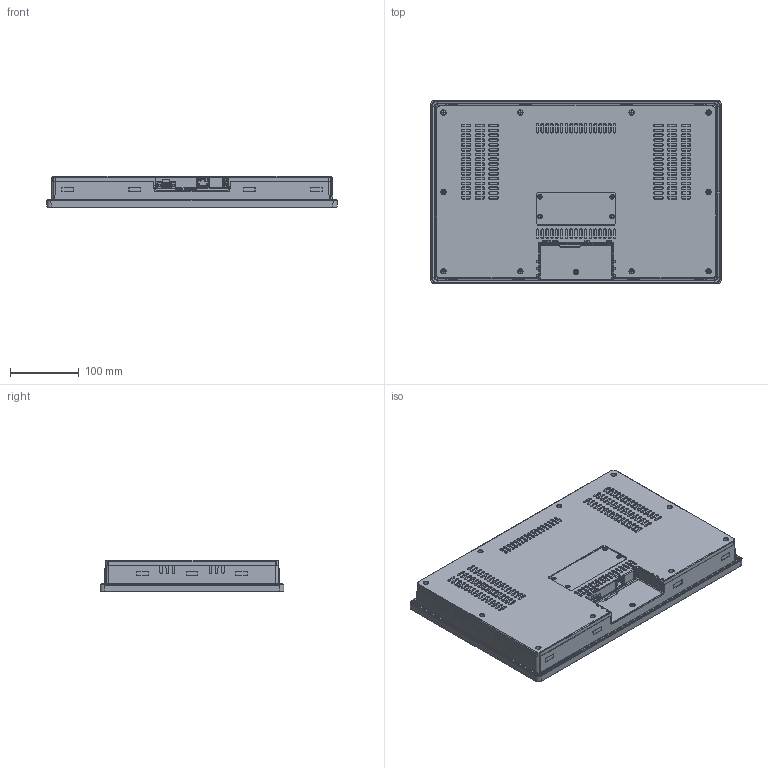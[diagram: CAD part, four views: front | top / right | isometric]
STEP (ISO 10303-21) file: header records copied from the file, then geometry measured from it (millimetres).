
FILE_DESCRIPTION (( 'STEP AP214' ), '1' );
FILE_NAME ('eX215 Web.STEP', '2024-02-16T08:33:26', ( '' ), ( '' ), 'SwSTEP 2.0', 'SolidWorks 2023', '' );
FILE_SCHEMA (( 'AUTOMOTIVE_DESIGN' ));
Length unit declared in the file: millimetre
Products named in the file (1): eX215 Web
Bounding box: 422.7 x 267.7 x 45.65 mm (x, y, z)
Volume: 4678921.4 mm3; surface area: 320010.6 mm2
Topology: 1 solids, 16 shells, 4200 faces, 10561 edges, 6504 vertices
Faces by surface type: plane 1826, cylinder 939, cone 508, torus 463, bspline 392, sphere 72
Entity records: 134893 total; most frequent: CARTESIAN_POINT 36712, ORIENTED_EDGE 20966, DIRECTION 20035, EDGE_CURVE 10483, AXIS2_PLACEMENT_3D 7098, VERTEX_POINT 6504, LINE 5839, VECTOR 5839
